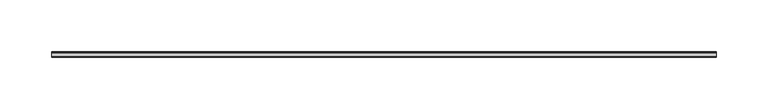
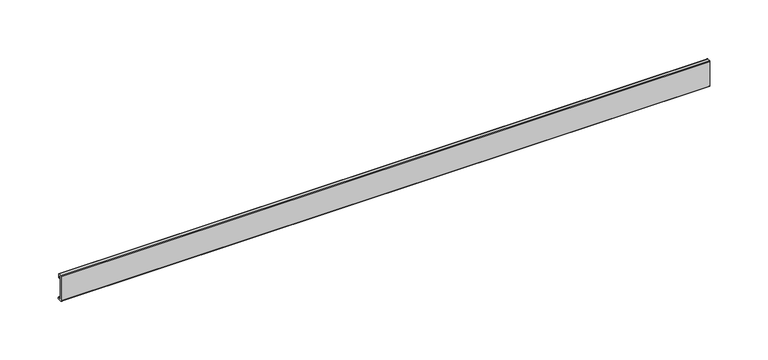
"""IFC4 building model written with IfcOpenShell, lengths in millimetres: proxy geometry, Weiku - Montante - Capa de folha 02.3.02.406 : Weiku - Montante - Capa de folha 02.3.02.406."""

from ifc_helpers import new_model, si_unit, point, frame, frame_2d, origin, place, context, project, spatial, polyline, circle_curve, trimmed, segment, composite_curve, outline, extrude, source, transform, mapped, element, save


def generic_models_5789c373(model_context):
    return source(origin(), model_context, "Body", "SweptSolid", [
        extrude(outline(composite_curve([segment(polyline([(4.6421508, 2.2715508), (5.3603515, 1.056104)]), True, "CONTINUOUS"), segment(trimmed(circle_curve(frame_2d((4.7576991, 0.7)), 0.7), [point((5.3603515, 1.056104))], [point((4.7576991, 0.0))], False, "CARTESIAN"), True, "CONTINUOUS"), segment(polyline([(4.7576991, 0.0), (0.5, 0.0)]), True, "CONTINUOUS"), segment(trimmed(circle_curve(frame_2d((0.5, 0.5)), 0.5), [point((0.5, 0.0))], [point((0.0, 0.5))], False, "CARTESIAN"), True, "CONTINUOUS"), segment(polyline([(0.0, 0.5), (0.0, 26.2)]), True, "CONTINUOUS"), segment(trimmed(circle_curve(frame_2d((0.5, 26.2)), 0.5), [point((0.0, 26.2))], [point((0.5, 26.7))], False, "CARTESIAN"), True, "CONTINUOUS"), segment(polyline([(0.5, 26.7), (3.78, 26.7)]), True, "CONTINUOUS"), segment(trimmed(circle_curve(frame_2d((3.78, 26.2)), 0.5), [point((3.78, 26.7))], [point((4.28, 26.2))], False, "CARTESIAN"), True, "CONTINUOUS"), segment(polyline([(4.28, 26.2), (4.28, 22.3396), (3.3063, 22.3396), (3.3063, 25.684), (1.6933, 25.684), (1.6933, 1.016), (3.3866, 1.016), (4.6421508, 2.2715508)]), True, "CONTINUOUS")], self_intersect=False)), frame((-322.35, 0.0, 0.0), z_axis=(1.0, 0.0, 0.0), x_axis=(0.0, 1.0, 0.0)), (0.0, 0.0, 1.0), 644.7),
    ])


if __name__ == "__main__":
    model = new_model("IFC4")
    model_context = context("Model", 3, world=origin())
    ifc_project = project(units=[si_unit("LENGTHUNIT", "METRE", prefix="MILLI")], contexts=[model_context])
    site = spatial("IfcSite", under=ifc_project)
    building = spatial("IfcBuilding", under=site)
    placement = place(None, origin())
    generic_models_shape = generic_models_5789c373(model_context)
    element("IfcBuildingElementProxy", 1, Name="Weiku - Montante - Capa de folha 02.3.02.406 : Weiku - Montante - Capa de folha 02.3.02.406", ObjectType="Weiku - Montante - Capa de folha 02.3.02.406 : Weiku - Montante - Capa de folha 02.3.02.406", at=placement, inside=building, context=model_context, shape_type="MappedRepresentation", body=[
        mapped(generic_models_shape, transform((0.0, 0.0, 0.0), x_axis=(1.0, 0.0, 0.0), y_axis=(0.0, 1.0, 0.0), z_axis=(0.0, 0.0, 1.0))),
    ])
    save(model, "model.ifc")
